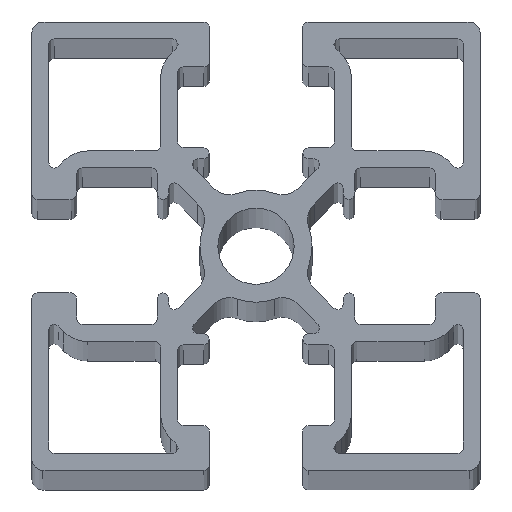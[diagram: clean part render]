
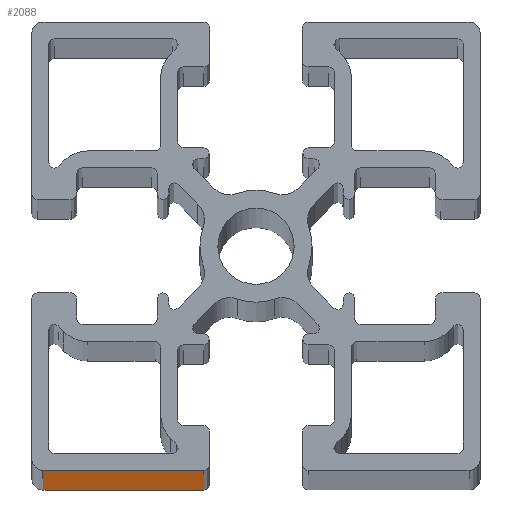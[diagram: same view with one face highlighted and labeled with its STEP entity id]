
A CAD part, top view. The second image highlights one B-rep face of the part: STEP entity #2088.
In plain terms, the highlighted planar face has unit normal (0, -1, 0).
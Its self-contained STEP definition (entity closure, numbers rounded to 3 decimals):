
#2030=CARTESIAN_POINT('',(265.503,150.153,1000.0));
#2031=VERTEX_POINT('',#2030);
#2039=CARTESIAN_POINT('',(265.503,150.153,0.0));
#2040=VERTEX_POINT('',#2039);
#2041=CARTESIAN_POINT('',(265.503,150.153,0.0));
#2042=DIRECTION('',(0.0,0.0,1.0));
#2043=VECTOR('',#2042,1000.0);
#2044=LINE('',#2041,#2043);
#2045=EDGE_CURVE('',#2040,#2031,#2044,.T.);
#2058=CARTESIAN_POINT('',(265.503,150.153,0.0));
#2059=DIRECTION('',(0.0,-1.0,0.0));
#2060=DIRECTION('',(0.0,0.0,-1.0));
#2061=AXIS2_PLACEMENT_3D('',#2058,#2059,#2060);
#2062=PLANE('',#2061);
#2063=CARTESIAN_POINT('',(251.153,150.153,1000.0));
#2064=VERTEX_POINT('',#2063);
#2065=CARTESIAN_POINT('',(265.503,150.153,1000.0));
#2066=DIRECTION('',(-1.0,0.0,0.0));
#2067=VECTOR('',#2066,14.35);
#2068=LINE('',#2065,#2067);
#2069=EDGE_CURVE('',#2031,#2064,#2068,.T.);
#2070=ORIENTED_EDGE('',*,*,#2069,.T.);
#2071=CARTESIAN_POINT('',(251.153,150.153,0.0));
#2072=VERTEX_POINT('',#2071);
#2073=CARTESIAN_POINT('',(251.153,150.153,0.0));
#2074=DIRECTION('',(0.0,0.0,1.0));
#2075=VECTOR('',#2074,1000.0);
#2076=LINE('',#2073,#2075);
#2077=EDGE_CURVE('',#2072,#2064,#2076,.T.);
#2078=ORIENTED_EDGE('',*,*,#2077,.F.);
#2079=CARTESIAN_POINT('',(251.153,150.153,0.0));
#2080=DIRECTION('',(1.0,0.0,0.0));
#2081=VECTOR('',#2080,14.35);
#2082=LINE('',#2079,#2081);
#2083=EDGE_CURVE('',#2072,#2040,#2082,.T.);
#2084=ORIENTED_EDGE('',*,*,#2083,.T.);
#2085=ORIENTED_EDGE('',*,*,#2045,.T.);
#2086=EDGE_LOOP('',(#2070,#2078,#2084,#2085));
#2087=FACE_OUTER_BOUND('',#2086,.T.);
#2088=ADVANCED_FACE('',(#2087),#2062,.T.);
